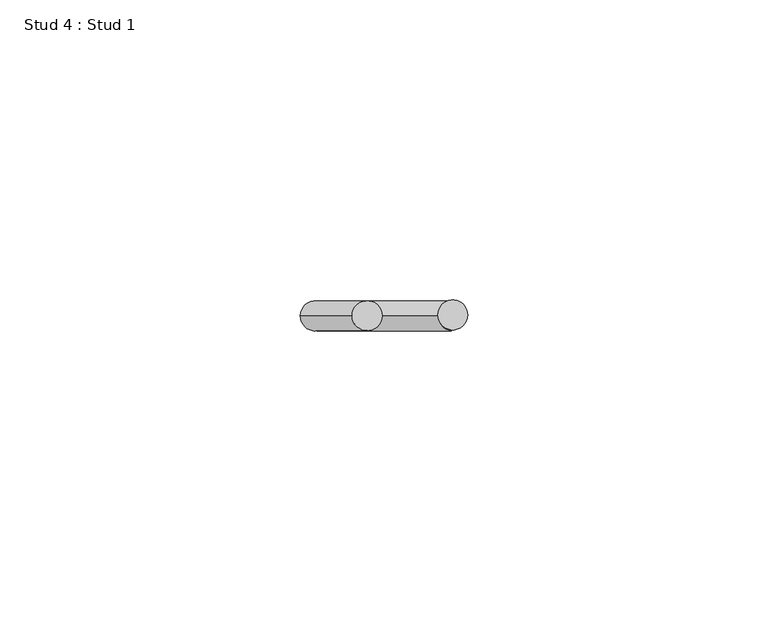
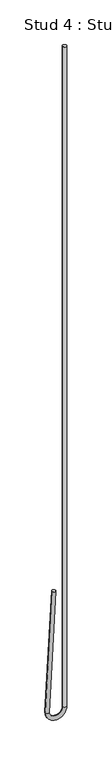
"""IFC4 building model written with IfcOpenShell, lengths in millimetres: proxy geometry, Stud 4 : Stud 1."""

from ifc_helpers import new_model, si_unit, point, frame, origin, place, context, project, spatial, circle_curve, ellipse_curve, trimmed, source, transform, mapped, element, save
from ifc_brep_helpers import plane_surface, cylinder_surface, revolved_surface, advanced_brep


def stud_4_stud_1_5cc35882(model_context):
    return source(origin(), model_context, "Body", "AdvancedBrep", [
        advanced_brep(
        [(-10978.2326538, 5867.5191481, 3640.800192), (-10973.2395061, 5867.5191481, 3640.5385122), (-10986.8733201, 5867.5191481, 3475.9264558), (-10981.8801725, 5867.5191481, 3475.664776), (-10963.9714562, 5867.5191481, 3475.7956159), (-10958.9714562, 5867.5191481, 3475.7956159), (-10958.9714562, 5867.5191481, 4390.1956159), (-10963.9714562, 5867.5191481, 4390.1956159)],
        [
            (0, 1, circle_curve(frame((-10975.7360799, 5867.5191481, 3640.6693521), z_axis=(0.05233595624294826, 0.0, 0.9986295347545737), x_axis=(0.9986295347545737, 0.0, -0.05233595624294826)), 2.5)),
            (1, 0, circle_curve(frame((-10975.7360799, 5867.5191481, 3640.6693521), z_axis=(0.05233595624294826, 0.0, 0.9986295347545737), x_axis=(0.9986295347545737, 0.0, -0.05233595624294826)), 2.5)),
            (0, 2),
            (2, 3, circle_curve(frame((-10984.3767463, 5867.5191481, 3475.7956159), z_axis=(0.05233595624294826, 0.0, 0.9986295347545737), x_axis=(0.9986295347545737, 0.0, -0.05233595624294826)), 2.5)),
            (3, 1),
            (3, 2, circle_curve(frame((-10984.3767463, 5867.5191481, 3475.7956159), z_axis=(0.05233595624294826, 0.0, 0.9986295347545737), x_axis=(0.9986295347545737, 0.0, -0.05233595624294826)), 2.5)),
            (4, 3, circle_curve(frame((-10972.9241013, 5867.5191481, 3475.7956159), z_axis=(0.0, 1.0, 0.0), x_axis=(-1.0, 0.0, 0.0)), 8.952645)),
            (2, 5, circle_curve(frame((-10972.9241013, 5867.5191481, 3475.7956159), z_axis=(0.0, -1.0, 0.0), x_axis=(-1.0, 0.0, 0.0)), 13.952645)),
            (5, 4, circle_curve(frame((-10961.4714562, 5867.5191481, 3475.7956159), z_axis=(0.0, 0.0, -1.0), x_axis=(-1.0, 0.0, 0.0)), 2.5)),
            (4, 5, circle_curve(frame((-10961.4714562, 5867.5191481, 3475.7956159), z_axis=(0.0, 0.0, -1.0), x_axis=(-1.0, 0.0, 0.0)), 2.5)),
            (6, 7, circle_curve(frame((-10961.4714562, 5867.5191481, 4390.1956159), z_axis=(0.0, 0.0, 1.0), x_axis=(-1.0, 0.0, 0.0)), 2.5)),
            (7, 6, circle_curve(frame((-10961.4714562, 5867.5191481, 4390.1956159), z_axis=(0.0, 0.0, 1.0), x_axis=(-1.0, 0.0, 0.0)), 2.5)),
            (5, 6),
            (7, 4),
        ],
        [
            plane_surface(frame((-10975.7360799, 6461.2441481, 3640.6693521), z_axis=(0.05233595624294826, 0.0, 0.9986295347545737), x_axis=(0.0, -1.0, 0.0))),
            cylinder_surface(frame((-10975.7360799, 5867.5191481, 3640.6693521), z_axis=(0.05233595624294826, 0.0, 0.9986295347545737), x_axis=(0.9986295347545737, 0.0, -0.05233595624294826)), 2.5),
            revolved_surface(trimmed(ellipse_curve(frame((-10984.3767463, 5867.5191481, 3475.7956159), z_axis=(0.0, 0.0, 1.0), x_axis=(1.0, 0.0, 0.0)), 2.5, 2.5), [point((-10986.8767463, 5867.5191481, 3475.7956159))], [point((-10981.8767463, 5867.5191481, 3475.7956159))], True, "CARTESIAN"), (-10972.9241013, 6461.2441481, 3475.7956159), (0.0, -1.0, 0.0)),
            revolved_surface(trimmed(ellipse_curve(frame((-10984.3767463, 5867.5191481, 3475.7956159), z_axis=(0.0, 0.0, 1.0), x_axis=(1.0, 0.0, 0.0)), 2.5, 2.5), [point((-10981.8767463, 5867.5191481, 3475.7956159))], [point((-10986.8767463, 5867.5191481, 3475.7956159))], True, "CARTESIAN"), (-10972.9241013, 6461.2441481, 3475.7956159), (0.0, -1.0, 0.0)),
            plane_surface(frame((-10961.4714562, 6461.2441481, 4390.1956159), z_axis=(0.0, 0.0, 1.0), x_axis=(0.0, -1.0, 0.0))),
            cylinder_surface(frame((-10961.4714562, 5867.5191481, 3475.7956159), z_axis=(0.0, 0.0, -1.0), x_axis=(-1.0, 0.0, 0.0)), 2.5),
        ],
        [
            (0, [[1, 2]]),
            (1, [[-1, 3, 4, 5]]),
            (1, [[-2, -5, 6, -3]]),
            (2, [[7, -4, 8, 9]]),
            (3, [[-8, -6, -7, 10]]),
            (4, [[11, 12]]),
            (5, [[-9, 13, -12, 14]]),
            (5, [[-10, -14, -11, -13]]),
        ],
    ),
    ])


if __name__ == "__main__":
    model = new_model("IFC4")
    model_context = context("Model", 3, world=origin())
    ifc_project = project(units=[si_unit("LENGTHUNIT", "METRE", prefix="MILLI")], contexts=[model_context])
    site = spatial("IfcSite", under=ifc_project)
    building = spatial("IfcBuilding", under=site)
    placement = place(None, origin())
    stud_4_stud_1_shape = stud_4_stud_1_5cc35882(model_context)
    element("IfcBuildingElementProxy", 1, Name="Stud 4 : Stud 1", ObjectType="Stud 4 : Stud 1", at=placement, inside=building, context=model_context, shape_type="MappedRepresentation", body=[
        mapped(stud_4_stud_1_shape, transform((0.0, 0.0, 0.0), x_axis=(1.0, 0.0, 0.0), y_axis=(0.0, 1.0, 0.0), z_axis=(0.0, 0.0, 1.0))),
    ])
    save(model, "model.ifc")
